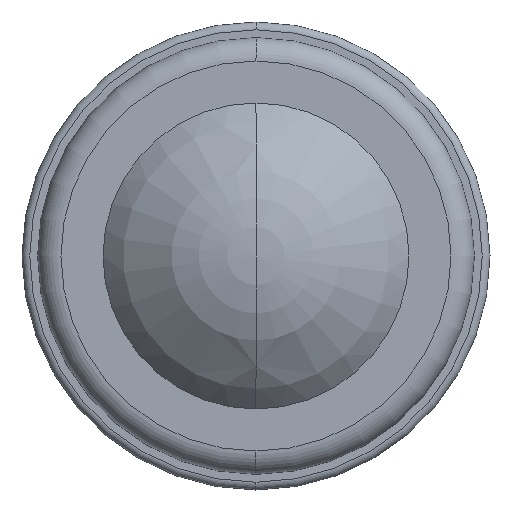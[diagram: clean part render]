
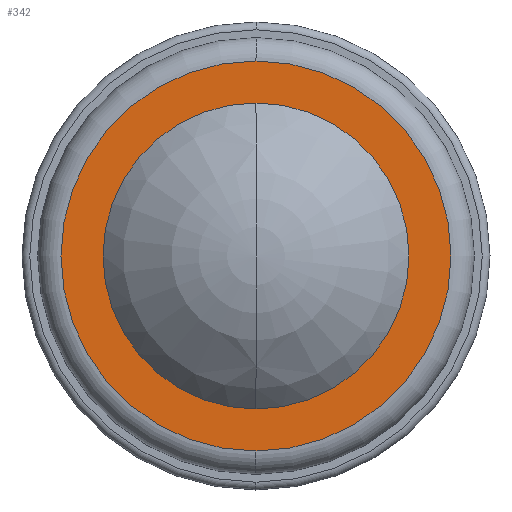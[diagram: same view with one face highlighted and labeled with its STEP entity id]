
A CAD part, front view. The second image highlights one B-rep face of the part: STEP entity #342.
In plain terms, the highlighted planar face has unit normal (0, -1, 0).
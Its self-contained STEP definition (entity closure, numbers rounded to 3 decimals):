
#204 = VERTEX_POINT( '', #535 );
#220 = VERTEX_POINT( '', #553 );
#262 = EDGE_CURVE( '', #220, #204, #601, .T. );
#342 = ADVANCED_FACE( '', ( #691, #692 ), #693, .T. );
#374 = VERTEX_POINT( '', #732 );
#376 = EDGE_CURVE( '', #374, #394, #734, .T. );
#394 = VERTEX_POINT( '', #754 );
#400 = EDGE_CURVE( '', #204, #220, #760, .T. );
#480 = EDGE_CURVE( '', #394, #374, #850, .T. );
#535 = CARTESIAN_POINT( '', ( 0., -22.5, -12.5 ) );
#553 = CARTESIAN_POINT( '', ( 0., -22.5, 12.5 ) );
#601 = CIRCLE( '', #985, 12.5 );
#691 = FACE_BOUND( '', #1096, .T. );
#692 = FACE_OUTER_BOUND( '', #1097, .T. );
#693 = PLANE( '', #1098 );
#732 = CARTESIAN_POINT( '', ( 0., -22.5, -9.807 ) );
#734 = CIRCLE( '', #1149, 9.807 );
#754 = CARTESIAN_POINT( '', ( 0., -22.5, 9.807 ) );
#760 = CIRCLE( '', #1180, 12.5 );
#850 = CIRCLE( '', #1292, 9.807 );
#985 = AXIS2_PLACEMENT_3D( '', #1432, #1433, #1434 );
#1096 = EDGE_LOOP( '', ( #1559, #1560 ) );
#1097 = EDGE_LOOP( '', ( #1561, #1562 ) );
#1098 = AXIS2_PLACEMENT_3D( '', #1563, #1564, #1565 );
#1149 = AXIS2_PLACEMENT_3D( '', #1639, #1640, #1641 );
#1180 = AXIS2_PLACEMENT_3D( '', #1669, #1670, #1671 );
#1292 = AXIS2_PLACEMENT_3D( '', #1785, #1786, #1787 );
#1432 = CARTESIAN_POINT( '', ( 0., -22.5, 0. ) );
#1433 = DIRECTION( '', ( 0., -1., 0. ) );
#1434 = DIRECTION( '', ( 0., 0., 1. ) );
#1559 = ORIENTED_EDGE( '', *, *, #480, .F. );
#1560 = ORIENTED_EDGE( '', *, *, #376, .F. );
#1561 = ORIENTED_EDGE( '', *, *, #262, .T. );
#1562 = ORIENTED_EDGE( '', *, *, #400, .T. );
#1563 = CARTESIAN_POINT( '', ( 0., -22.5, 11.154 ) );
#1564 = DIRECTION( '', ( 0., -1., 0. ) );
#1565 = DIRECTION( '', ( 0., 0., 1. ) );
#1639 = CARTESIAN_POINT( '', ( 0., -22.5, 0. ) );
#1640 = DIRECTION( '', ( 0., -1., 0. ) );
#1641 = DIRECTION( '', ( 0., 0., 1. ) );
#1669 = CARTESIAN_POINT( '', ( 0., -22.5, 0. ) );
#1670 = DIRECTION( '', ( 0., -1., 0. ) );
#1671 = DIRECTION( '', ( 0., 0., 1. ) );
#1785 = CARTESIAN_POINT( '', ( 0., -22.5, 0. ) );
#1786 = DIRECTION( '', ( 0., -1., 0. ) );
#1787 = DIRECTION( '', ( 0., 0., 1. ) );
